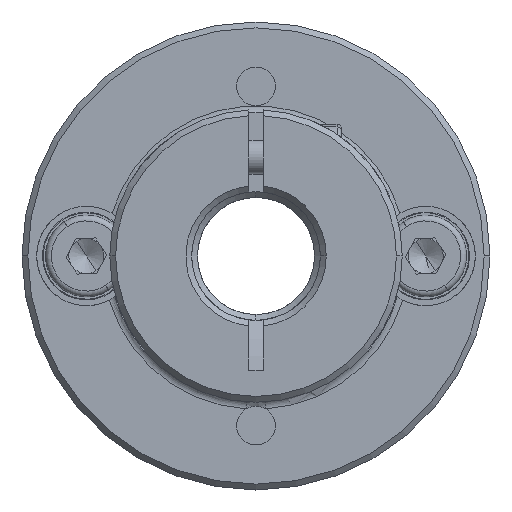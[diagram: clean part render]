
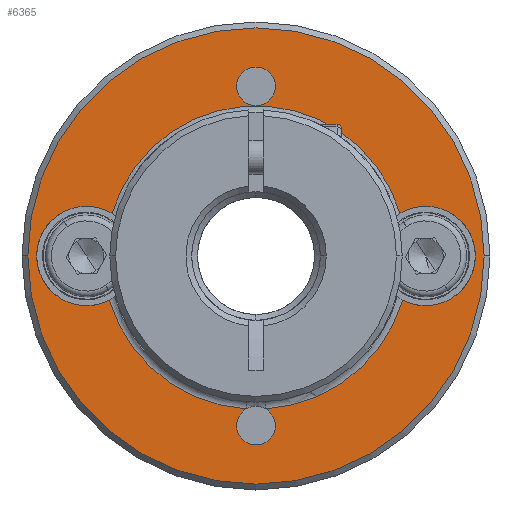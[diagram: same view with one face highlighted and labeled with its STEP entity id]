
A CAD part, front view. The second image highlights one B-rep face of the part: STEP entity #6365.
In plain terms, the highlighted planar face has unit normal (0, -1, 0).
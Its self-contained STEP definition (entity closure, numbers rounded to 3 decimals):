
#54 = EDGE_CURVE ( 'NONE', #8939, #1206, #7827, .T. ) ;
#58 = DIRECTION ( 'NONE',  ( 1., 0., 0. ) ) ;
#228 = EDGE_CURVE ( 'NONE', #4447, #5161, #11698, .T. ) ;
#255 = EDGE_CURVE ( 'NONE', #3871, #4447, #10125, .T. ) ;
#539 = DIRECTION ( 'NONE',  ( 0., -1., 0. ) ) ;
#594 = VERTEX_POINT ( 'NONE', #10633 ) ;
#682 = AXIS2_PLACEMENT_3D ( 'NONE', #4385, #6470, #2407 ) ;
#803 = ORIENTED_EDGE ( 'NONE', *, *, #2607, .T. ) ;
#851 = VERTEX_POINT ( 'NONE', #9340 ) ;
#985 = AXIS2_PLACEMENT_3D ( 'NONE', #2278, #10203, #9159 ) ;
#1017 = CARTESIAN_POINT ( 'NONE',  ( -24.307, -13.63, 43.638 ) ) ;
#1131 = CARTESIAN_POINT ( 'NONE',  ( -10.355, -13.63, 54.5 ) ) ;
#1206 = VERTEX_POINT ( 'NONE', #1131 ) ;
#1214 = CARTESIAN_POINT ( 'NONE',  ( -26.505, -13.63, 40. ) ) ;
#1263 = DIRECTION ( 'NONE',  ( 1., 0., 0. ) ) ;
#1464 = AXIS2_PLACEMENT_3D ( 'NONE', #5285, #5374, #4259 ) ;
#1497 = CIRCLE ( 'NONE', #985, 13.1 ) ;
#1681 = CIRCLE ( 'NONE', #8558, 4.25 ) ;
#1742 = CARTESIAN_POINT ( 'NONE',  ( -12.005, -13.63, 40. ) ) ;
#1752 = DIRECTION ( 'NONE',  ( 1., 0., 0. ) ) ;
#1754 = AXIS2_PLACEMENT_3D ( 'NONE', #9083, #9255, #7287 ) ;
#1885 = CARTESIAN_POINT ( 'NONE',  ( -12.005, -13.63, 54.5 ) ) ;
#2179 = DIRECTION ( 'NONE',  ( 0., 1., 0. ) ) ;
#2244 = DIRECTION ( 'NONE',  ( 1., 0., 0. ) ) ;
#2278 = CARTESIAN_POINT ( 'NONE',  ( -12.005, -13.63, 40. ) ) ;
#2302 = CIRCLE ( 'NONE', #9472, 13.1 ) ;
#2318 = CARTESIAN_POINT ( 'NONE',  ( 7.495, -13.63, 40. ) ) ;
#2399 = ORIENTED_EDGE ( 'NONE', *, *, #255, .T. ) ;
#2407 = DIRECTION ( 'NONE',  ( 1., 0., 0. ) ) ;
#2440 = EDGE_LOOP ( 'NONE', ( #2754, #6614, #2399, #7602, #8729, #10873, #2578, #10954, #12760, #9015 ) ) ;
#2473 = AXIS2_PLACEMENT_3D ( 'NONE', #6151, #2179, #1263 ) ;
#2519 = CARTESIAN_POINT ( 'NONE',  ( -26.505, -13.63, 40. ) ) ;
#2578 = ORIENTED_EDGE ( 'NONE', *, *, #4032, .T. ) ;
#2607 = EDGE_CURVE ( 'NONE', #1206, #8939, #10794, .T. ) ;
#2754 = ORIENTED_EDGE ( 'NONE', *, *, #9608, .T. ) ;
#2782 = ORIENTED_EDGE ( 'NONE', *, *, #6091, .T. ) ;
#2885 = AXIS2_PLACEMENT_3D ( 'NONE', #12166, #10101, #10225 ) ;
#3069 = CARTESIAN_POINT ( 'NONE',  ( 0.298, -13.63, 43.638 ) ) ;
#3347 = DIRECTION ( 'NONE',  ( 1., 0., 0. ) ) ;
#3407 = FACE_BOUND ( 'NONE', #6087, .T. ) ;
#3490 = AXIS2_PLACEMENT_3D ( 'NONE', #1742, #6639, #6724 ) ;
#3651 = CARTESIAN_POINT ( 'NONE',  ( -11.175, -13.63, 26.926 ) ) ;
#3871 = VERTEX_POINT ( 'NONE', #1017 ) ;
#4025 = ORIENTED_EDGE ( 'NONE', *, *, #12219, .T. ) ;
#4032 = EDGE_CURVE ( 'NONE', #6308, #6658, #9850, .T. ) ;
#4159 = DIRECTION ( 'NONE',  ( 1., 0., 0. ) ) ;
#4259 = DIRECTION ( 'NONE',  ( 1., 0., 0. ) ) ;
#4385 = CARTESIAN_POINT ( 'NONE',  ( -12.005, -13.63, 25.5 ) ) ;
#4408 = AXIS2_PLACEMENT_3D ( 'NONE', #1885, #9822, #1752 ) ;
#4447 = VERTEX_POINT ( 'NONE', #3069 ) ;
#4461 = EDGE_CURVE ( 'NONE', #9286, #3871, #6135, .T. ) ;
#4500 = EDGE_CURVE ( 'NONE', #5161, #4643, #11846, .T. ) ;
#4643 = VERTEX_POINT ( 'NONE', #5395 ) ;
#4915 = VERTEX_POINT ( 'NONE', #6867 ) ;
#5161 = VERTEX_POINT ( 'NONE', #12357 ) ;
#5176 = EDGE_CURVE ( 'NONE', #4915, #12413, #8267, .T. ) ;
#5179 = CIRCLE ( 'NONE', #6887, 19.5 ) ;
#5285 = CARTESIAN_POINT ( 'NONE',  ( -12.005, -13.63, 54.5 ) ) ;
#5302 = AXIS2_PLACEMENT_3D ( 'NONE', #9074, #7147, #8069 ) ;
#5333 = ORIENTED_EDGE ( 'NONE', *, *, #54, .T. ) ;
#5374 = DIRECTION ( 'NONE',  ( 0., 1., 0. ) ) ;
#5395 = CARTESIAN_POINT ( 'NONE',  ( 0.54, -13.63, 36.226 ) ) ;
#5428 = CARTESIAN_POINT ( 'NONE',  ( -13.655, -13.63, 54.5 ) ) ;
#5533 = EDGE_LOOP ( 'NONE', ( #2782, #4025 ) ) ;
#6087 = EDGE_LOOP ( 'NONE', ( #5333, #803 ) ) ;
#6091 = EDGE_CURVE ( 'NONE', #851, #7824, #11913, .T. ) ;
#6135 = CIRCLE ( 'NONE', #7351, 4.25 ) ;
#6151 = CARTESIAN_POINT ( 'NONE',  ( -12.005, -13.63, 25.5 ) ) ;
#6184 = DIRECTION ( 'NONE',  ( 0., 1., 0. ) ) ;
#6308 = VERTEX_POINT ( 'NONE', #3651 ) ;
#6365 = ADVANCED_FACE ( 'NONE', ( #11297, #8667, #3407 ), #11634, .T. ) ;
#6435 = CARTESIAN_POINT ( 'NONE',  ( -12.005, -13.63, 40. ) ) ;
#6470 = DIRECTION ( 'NONE',  ( 0., 1., 0. ) ) ;
#6614 = ORIENTED_EDGE ( 'NONE', *, *, #4461, .T. ) ;
#6639 = DIRECTION ( 'NONE',  ( 0., -1., 0. ) ) ;
#6658 = VERTEX_POINT ( 'NONE', #8977 ) ;
#6724 = DIRECTION ( 'NONE',  ( 1., 0., 0. ) ) ;
#6790 = CARTESIAN_POINT ( 'NONE',  ( -12.834, -13.63, 26.926 ) ) ;
#6867 = CARTESIAN_POINT ( 'NONE',  ( -13.655, -13.63, 25.5 ) ) ;
#6887 = AXIS2_PLACEMENT_3D ( 'NONE', #6435, #539, #11302 ) ;
#7147 = DIRECTION ( 'NONE',  ( 0., 1., 0. ) ) ;
#7287 = DIRECTION ( 'NONE',  ( 1., 0., 0. ) ) ;
#7351 = AXIS2_PLACEMENT_3D ( 'NONE', #1214, #9966, #2244 ) ;
#7516 = CIRCLE ( 'NONE', #2885, 1.65 ) ;
#7602 = ORIENTED_EDGE ( 'NONE', *, *, #228, .T. ) ;
#7824 = VERTEX_POINT ( 'NONE', #2318 ) ;
#7827 = CIRCLE ( 'NONE', #4408, 1.65 ) ;
#8001 = DIRECTION ( 'NONE',  ( 0., 1., 0. ) ) ;
#8069 = DIRECTION ( 'NONE',  ( 1., 0., 0. ) ) ;
#8267 = CIRCLE ( 'NONE', #682, 1.65 ) ;
#8268 = DIRECTION ( 'NONE',  ( 1., 0., 0. ) ) ;
#8368 = AXIS2_PLACEMENT_3D ( 'NONE', #11808, #8001, #58 ) ;
#8558 = AXIS2_PLACEMENT_3D ( 'NONE', #2519, #11328, #8268 ) ;
#8667 = FACE_BOUND ( 'NONE', #2440, .T. ) ;
#8729 = ORIENTED_EDGE ( 'NONE', *, *, #4500, .T. ) ;
#8846 = EDGE_CURVE ( 'NONE', #4643, #6308, #2302, .T. ) ;
#8939 = VERTEX_POINT ( 'NONE', #5428 ) ;
#8977 = CARTESIAN_POINT ( 'NONE',  ( -10.355, -13.63, 25.5 ) ) ;
#9015 = ORIENTED_EDGE ( 'NONE', *, *, #10524, .T. ) ;
#9074 = CARTESIAN_POINT ( 'NONE',  ( -12.005, -13.63, 40. ) ) ;
#9083 = CARTESIAN_POINT ( 'NONE',  ( -12.005, -13.63, 40. ) ) ;
#9159 = DIRECTION ( 'NONE',  ( 1., 0., 0. ) ) ;
#9255 = DIRECTION ( 'NONE',  ( 0., -1., 0. ) ) ;
#9286 = VERTEX_POINT ( 'NONE', #9946 ) ;
#9340 = CARTESIAN_POINT ( 'NONE',  ( -31.505, -13.63, 40. ) ) ;
#9472 = AXIS2_PLACEMENT_3D ( 'NONE', #11338, #11216, #3347 ) ;
#9608 = EDGE_CURVE ( 'NONE', #594, #9286, #1681, .T. ) ;
#9822 = DIRECTION ( 'NONE',  ( 0., 1., 0. ) ) ;
#9850 = CIRCLE ( 'NONE', #2473, 1.65 ) ;
#9946 = CARTESIAN_POINT ( 'NONE',  ( -30.755, -13.63, 40. ) ) ;
#9966 = DIRECTION ( 'NONE',  ( 0., 1., 0. ) ) ;
#10101 = DIRECTION ( 'NONE',  ( 0., 1., 0. ) ) ;
#10125 = CIRCLE ( 'NONE', #5302, 12.829 ) ;
#10203 = DIRECTION ( 'NONE',  ( 0., 1., 0. ) ) ;
#10225 = DIRECTION ( 'NONE',  ( 1., 0., 0. ) ) ;
#10524 = EDGE_CURVE ( 'NONE', #12413, #594, #1497, .T. ) ;
#10633 = CARTESIAN_POINT ( 'NONE',  ( -24.55, -13.63, 36.226 ) ) ;
#10794 = CIRCLE ( 'NONE', #1464, 1.65 ) ;
#10838 = AXIS2_PLACEMENT_3D ( 'NONE', #10929, #6184, #4159 ) ;
#10873 = ORIENTED_EDGE ( 'NONE', *, *, #8846, .T. ) ;
#10929 = CARTESIAN_POINT ( 'NONE',  ( 2.495, -13.63, 40. ) ) ;
#10954 = ORIENTED_EDGE ( 'NONE', *, *, #11005, .T. ) ;
#11005 = EDGE_CURVE ( 'NONE', #6658, #4915, #7516, .T. ) ;
#11216 = DIRECTION ( 'NONE',  ( 0., 1., 0. ) ) ;
#11297 = FACE_OUTER_BOUND ( 'NONE', #5533, .T. ) ;
#11302 = DIRECTION ( 'NONE',  ( 1., 0., 0. ) ) ;
#11328 = DIRECTION ( 'NONE',  ( 0., 1., 0. ) ) ;
#11338 = CARTESIAN_POINT ( 'NONE',  ( -12.005, -13.63, 40. ) ) ;
#11634 = PLANE ( 'NONE',  #3490 ) ;
#11698 = CIRCLE ( 'NONE', #8368, 4.25 ) ;
#11808 = CARTESIAN_POINT ( 'NONE',  ( 2.495, -13.63, 40. ) ) ;
#11846 = CIRCLE ( 'NONE', #10838, 4.25 ) ;
#11913 = CIRCLE ( 'NONE', #1754, 19.5 ) ;
#12166 = CARTESIAN_POINT ( 'NONE',  ( -12.005, -13.63, 25.5 ) ) ;
#12219 = EDGE_CURVE ( 'NONE', #7824, #851, #5179, .T. ) ;
#12357 = CARTESIAN_POINT ( 'NONE',  ( 6.745, -13.63, 40. ) ) ;
#12413 = VERTEX_POINT ( 'NONE', #6790 ) ;
#12760 = ORIENTED_EDGE ( 'NONE', *, *, #5176, .T. ) ;
